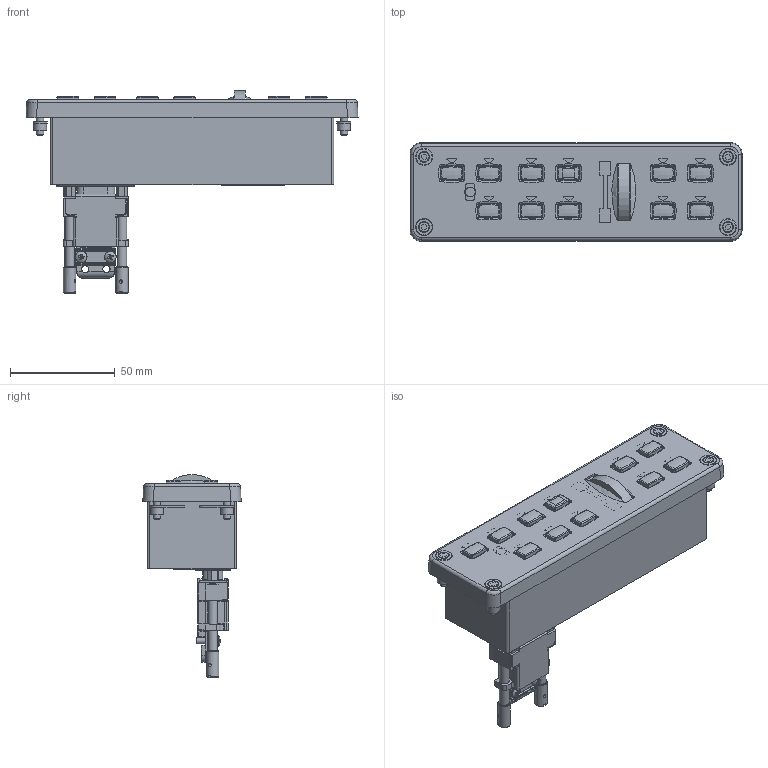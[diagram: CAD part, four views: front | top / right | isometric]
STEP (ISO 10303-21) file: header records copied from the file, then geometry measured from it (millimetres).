
FILE_DESCRIPTION (( 'STEP AP203' ), '1' );
FILE_NAME ('GMC305_rev1.STEP', '2017-09-01T17:37:19', ( 'Garmin' ), ( 'Garmin' ), 'SwSTEP 2.0', 'SolidWorks 2016', '' );
FILE_SCHEMA (( 'CONFIG_CONTROL_DESIGN' ));
Length unit declared in the file: millimetre
Products named in the file (1): GMC305_rev1
Bounding box: 158.75 x 46.99 x 97.02 mm (x, y, z)
Volume: 265256.6 mm3; surface area: 40916.3 mm2
Topology: 2 solids, 32 shells, 1510 faces, 3715 edges, 2349 vertices
Faces by surface type: plane 698, cylinder 390, bspline 151, torus 116, cone 103, sphere 52
Full cylindrical faces by diameter (mm): 1.587 x2, 2.261 x2, 2.489 x8, 2.845 x6, 3.175 x2, 3.302 x2, 3.454 x2, 3.5 x2, 3.505 x8, 4.572 x2, 4.801 x2, 5.588 x2, 5.944 x2, 6.2 x4, 8.05 x4, 8.128 x4, 9.05 x4
Entity records: 49977 total; most frequent: CARTESIAN_POINT 15742, ORIENTED_EDGE 7058, DIRECTION 6894, EDGE_CURVE 3529, AXIS2_PLACEMENT_3D 2463, VERTEX_POINT 2281, LINE 1968, VECTOR 1968
